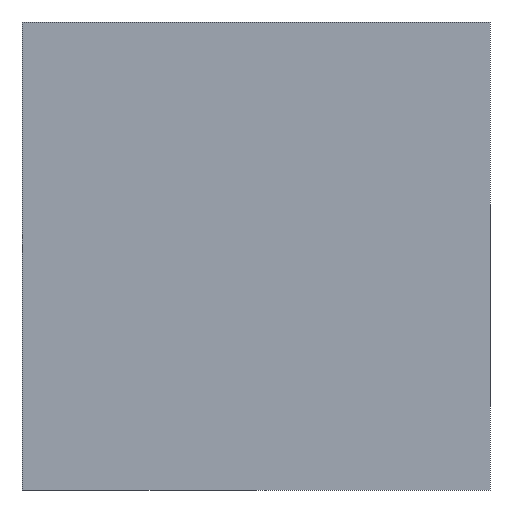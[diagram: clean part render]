
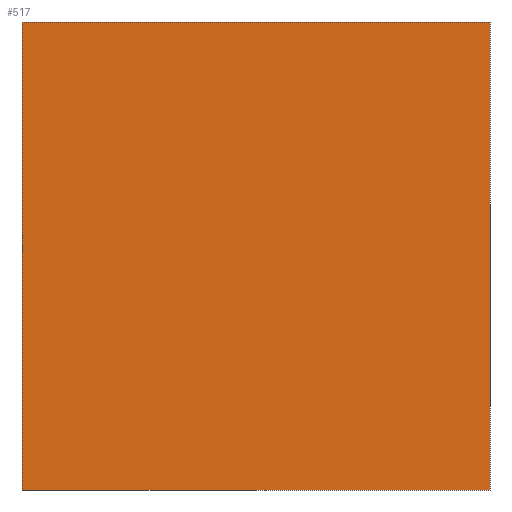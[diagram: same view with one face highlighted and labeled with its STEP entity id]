
A CAD part, left-side view. The second image highlights one B-rep face of the part: STEP entity #517.
In plain terms, the highlighted planar face has unit normal (-1, 0, 0).
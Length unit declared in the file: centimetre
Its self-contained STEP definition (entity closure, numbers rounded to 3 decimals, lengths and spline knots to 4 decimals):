
#35 = AXIS2_PLACEMENT_3D ( 'NONE', #63, #202, #531 ) ;
#63 = CARTESIAN_POINT ( 'NONE',  ( 0., 1000., 1000. ) ) ;
#71 = VERTEX_POINT ( 'NONE', #592 ) ;
#72 = ORIENTED_EDGE ( 'NONE', *, *, #236, .F. ) ;
#80 = VERTEX_POINT ( 'NONE', #180 ) ;
#83 = CARTESIAN_POINT ( 'NONE',  ( 0., 1000., 1000. ) ) ;
#94 = CARTESIAN_POINT ( 'NONE',  ( 0., 0., 1000. ) ) ;
#108 = CARTESIAN_POINT ( 'NONE',  ( 0., 1000., 1000. ) ) ;
#137 = EDGE_CURVE ( 'NONE', #80, #71, #563, .T. ) ;
#171 = VERTEX_POINT ( 'NONE', #272 ) ;
#180 = CARTESIAN_POINT ( 'NONE',  ( 0., 1000., 1000. ) ) ;
#181 = DIRECTION ( 'NONE',  ( 0., 0., -1. ) ) ;
#202 = DIRECTION ( 'NONE',  ( 1., 0., 0. ) ) ;
#231 = VECTOR ( 'NONE', #181, 100. ) ;
#236 = EDGE_CURVE ( 'NONE', #588, #171, #605, .T. ) ;
#237 = DIRECTION ( 'NONE',  ( 0., 0., -1. ) ) ;
#252 = PLANE ( 'NONE',  #35 ) ;
#262 = ORIENTED_EDGE ( 'NONE', *, *, #561, .T. ) ;
#272 = CARTESIAN_POINT ( 'NONE',  ( 0., 0., 0. ) ) ;
#297 = CARTESIAN_POINT ( 'NONE',  ( 0., 0., 1000. ) ) ;
#312 = ORIENTED_EDGE ( 'NONE', *, *, #573, .F. ) ;
#316 = VECTOR ( 'NONE', #575, 100. ) ;
#344 = CARTESIAN_POINT ( 'NONE',  ( 0., 1000., 0. ) ) ;
#393 = DIRECTION ( 'NONE',  ( 0., -1., 0. ) ) ;
#401 = ORIENTED_EDGE ( 'NONE', *, *, #137, .T. ) ;
#433 = VECTOR ( 'NONE', #237, 100. ) ;
#435 = FACE_OUTER_BOUND ( 'NONE', #585, .T. ) ;
#438 = LINE ( 'NONE', #344, #489 ) ;
#489 = VECTOR ( 'NONE', #393, 100. ) ;
#517 = ADVANCED_FACE ( 'NONE', ( #435 ), #252, .F. ) ;
#527 = LINE ( 'NONE', #108, #316 ) ;
#531 = DIRECTION ( 'NONE',  ( 0., 0., -1. ) ) ;
#561 = EDGE_CURVE ( 'NONE', #71, #171, #438, .T. ) ;
#563 = LINE ( 'NONE', #83, #231 ) ;
#573 = EDGE_CURVE ( 'NONE', #80, #588, #527, .T. ) ;
#575 = DIRECTION ( 'NONE',  ( 0., -1., 0. ) ) ;
#585 = EDGE_LOOP ( 'NONE', ( #262, #72, #312, #401 ) ) ;
#588 = VERTEX_POINT ( 'NONE', #297 ) ;
#592 = CARTESIAN_POINT ( 'NONE',  ( 0., 1000., 0. ) ) ;
#605 = LINE ( 'NONE', #94, #433 ) ;
